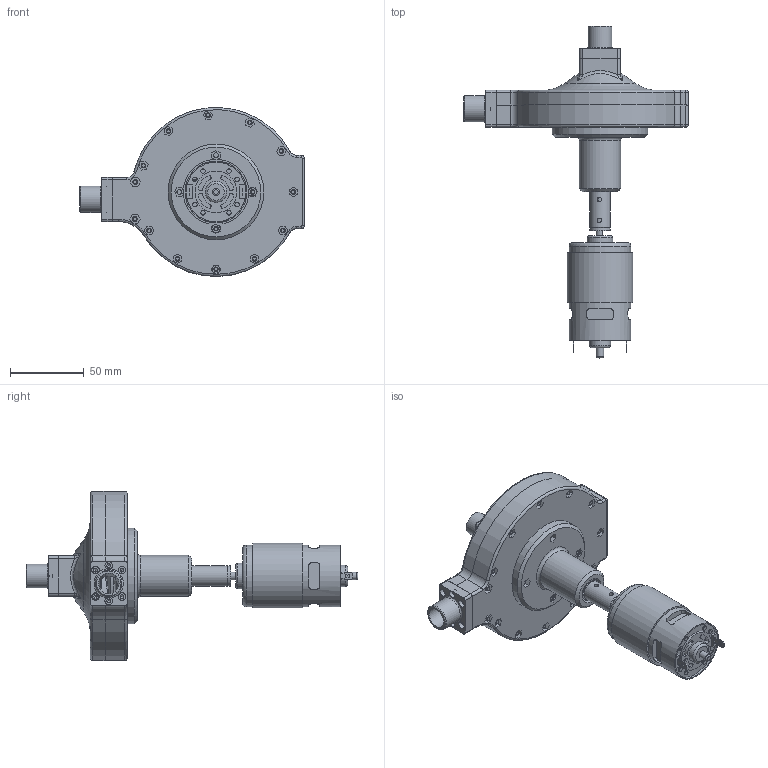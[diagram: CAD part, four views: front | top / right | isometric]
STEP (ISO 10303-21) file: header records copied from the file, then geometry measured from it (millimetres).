
FILE_DESCRIPTION(/* description */ (''),/* implementation_level */ '2;1');
FILE_NAME(/* name */ 'Assieme_pompa_small.stp',/* time_stamp */ '2025-04-20T18:34:21+02:00',/* author */ ('R5800u'),/* organization */ (''),/* preprocessor_version */ 'ST-DEVELOPER v20',/* originating_system */ 'Autodesk Inventor 2025',/* authorisation */ '');
FILE_SCHEMA (('AUTOMOTIVE_DESIGN { 1 0 10303 214 3 1 1 }'));
Length unit declared in the file: millimetre
Products named in the file (19): Assieme_pompa_small; pompa centrifuga; %3% BS 290 - SKF 625; albero_12mm; supporto_albero; cassa_bassa; cassa_alta; AS 1420 - 1973 - M3 x 20; out; in; AS 1112 - M3  Tipo 5; AS 1420 - 1973 - M3 x 10; anello_5mm; rondella_5mm; connettore_rigido; tappo_connettore_8mm; AS 1421 - M3 x 4 Punta a coppa; 775; Unbrako - M2,5 x 25
Assembly tree (35 placements, depth 2):
  Assieme_pompa_small
    pompa centrifuga
    %3% BS 290 - SKF 625  x2
    albero_12mm
    supporto_albero
    cassa_bassa
    cassa_alta
    AS 1420 - 1973 - M3 x 20  x13
    AS 1112 - M3  Tipo 5  x3
    out
    in
    AS 1420 - 1973 - M3 x 10
    Unbrako - M2,5 x 25  x2
    anello_5mm
    rondella_5mm
    connettore_rigido
    AS 1421 - M3 x 4 Punta a coppa  x2
    tappo_connettore_8mm
    775
Bounding box: 152.62 x 225.75 x 114.94 mm (x, y, z)
Volume: 361703.3 mm3; surface area: 133537.5 mm2
Topology: 48 solids, 48 shells, 1135 faces, 2793 edges, 1801 vertices
Faces by surface type: plane 544, cylinder 289, cone 111, bspline 94, torus 87, sphere 10
Full cylindrical faces by diameter (mm): 2 x1, 2.459 x3, 2.5 x2, 2.65 x24, 3 x28, 3.2 x34, 3.242 x2, 4.5 x2, 5 x7, 5.1 x1, 5.15 x1, 5.2 x13, 5.5 x31, 7.8 x1, 8 x1, 8.52 x4, 10 x2, 11.2 x2, 12 x1, 12.48 x4, 14 x3, 14.5 x1, 15.101 x1, 16 x3, 16.2 x3, 17 x1, 17.4 x1, 18 x1, 20 x1, 28 x1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
Entity records: 32696 total; most frequent: CARTESIAN_POINT 11784, ORIENTED_EDGE 4096, DIRECTION 4047, EDGE_CURVE 2048, AXIS2_PLACEMENT_3D 1539, VERTEX_POINT 1340, EDGE_LOOP 1064, LINE 969
